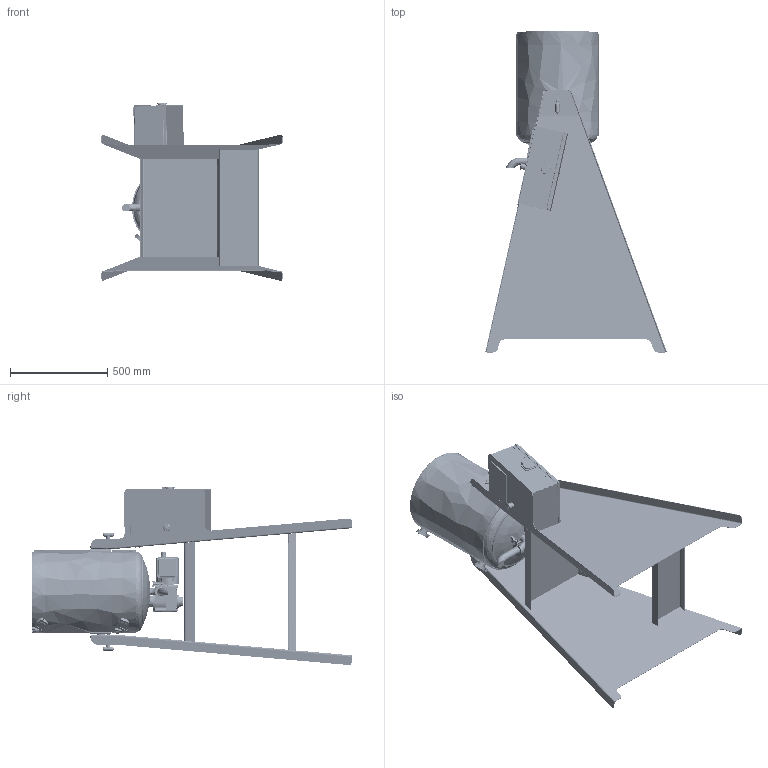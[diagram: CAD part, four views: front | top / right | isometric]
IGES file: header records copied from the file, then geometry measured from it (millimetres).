
Start section: SolidWorks IGES file using analytic representation for surfaces
Global section: file name: Y:\David Drop\MM20 CAD For Website\MM20_defeature.IGS; native system: SolidWorks 2023; preprocessor: SolidWorks 2023; author: David.Slater; date: 250925.104047; units: inch
Bounding box: 928.83 x 1646.55 x 913.77 mm (x, y, z)
Surface area: 8067951.3 mm2 (no closed solid volume)
Topology: 0 solids, 0 shells, 6641 faces, 71022 edges, 70955 vertices
Faces by surface type: bspline 4535, revolution 2106
